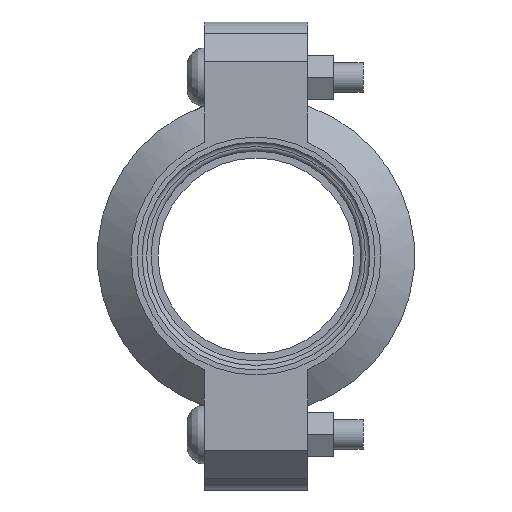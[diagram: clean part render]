
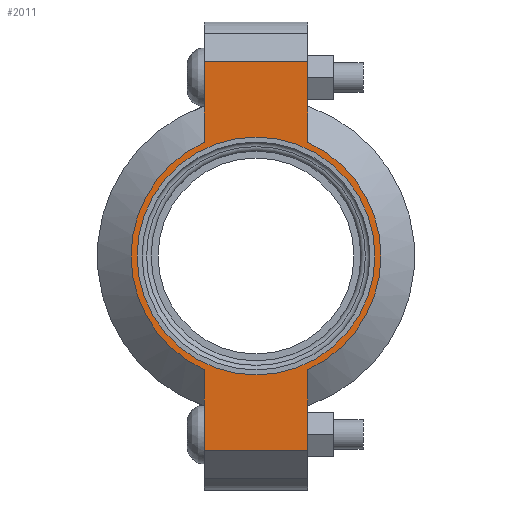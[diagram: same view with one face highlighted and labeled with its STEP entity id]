
A CAD part, left-side view. The second image highlights one B-rep face of the part: STEP entity #2011.
In plain terms, the highlighted planar face has unit normal (-1, 0, 0) as drawn and (0, 0, 1) by its records, which use the part's own axes.
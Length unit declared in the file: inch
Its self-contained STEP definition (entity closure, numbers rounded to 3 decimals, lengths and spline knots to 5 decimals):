
#126=LINE('',#3602,#227);
#139=LINE('',#3646,#240);
#144=LINE('',#3670,#245);
#151=LINE('',#3688,#252);
#158=LINE('',#3713,#259);
#159=LINE('',#3716,#260);
#227=VECTOR('',#2934,0.3937);
#240=VECTOR('',#2963,0.3937);
#245=VECTOR('',#2974,0.3937);
#252=VECTOR('',#2991,0.3937);
#259=VECTOR('',#3012,0.3937);
#260=VECTOR('',#3017,0.3937);
#316=FACE_BOUND('',#586,.T.);
#362=PLANE('',#2378);
#459=FACE_OUTER_BOUND('',#585,.T.);
#585=EDGE_LOOP('',(#1754,#1755,#1756,#1757,#1758,#1759,#1760,#1761));
#586=EDGE_LOOP('',(#1762));
#730=CIRCLE('',#2316,1.5);
#758=CIRCLE('',#2379,1.575);
#759=CIRCLE('',#2380,1.575);
#881=VERTEX_POINT('',#3390);
#924=VERTEX_POINT('',#3597);
#925=VERTEX_POINT('',#3601);
#941=VERTEX_POINT('',#3643);
#942=VERTEX_POINT('',#3645);
#948=VERTEX_POINT('',#3665);
#949=VERTEX_POINT('',#3669);
#954=VERTEX_POINT('',#3685);
#955=VERTEX_POINT('',#3687);
#1120=EDGE_CURVE('',#881,#881,#730,.T.);
#1182=EDGE_CURVE('',#925,#924,#126,.T.);
#1202=EDGE_CURVE('',#942,#941,#139,.T.);
#1211=EDGE_CURVE('',#949,#948,#144,.T.);
#1220=EDGE_CURVE('',#955,#954,#151,.T.);
#1232=EDGE_CURVE('',#949,#941,#158,.T.);
#1233=EDGE_CURVE('',#948,#955,#758,.T.);
#1234=EDGE_CURVE('',#925,#954,#159,.T.);
#1235=EDGE_CURVE('',#924,#942,#759,.T.);
#1754=ORIENTED_EDGE('',*,*,#1232,.F.);
#1755=ORIENTED_EDGE('',*,*,#1211,.T.);
#1756=ORIENTED_EDGE('',*,*,#1233,.T.);
#1757=ORIENTED_EDGE('',*,*,#1220,.T.);
#1758=ORIENTED_EDGE('',*,*,#1234,.F.);
#1759=ORIENTED_EDGE('',*,*,#1182,.T.);
#1760=ORIENTED_EDGE('',*,*,#1235,.T.);
#1761=ORIENTED_EDGE('',*,*,#1202,.T.);
#1762=ORIENTED_EDGE('',*,*,#1120,.T.);
#2011=ADVANCED_FACE('',(#459,#316),#362,.T.);
#2316=AXIS2_PLACEMENT_3D('',#3392,#2814,#2815);
#2378=AXIS2_PLACEMENT_3D('',#3714,#3013,#3014);
#2379=AXIS2_PLACEMENT_3D('',#3715,#3015,#3016);
#2380=AXIS2_PLACEMENT_3D('',#3717,#3018,#3019);
#2814=DIRECTION('center_axis',(0.,0.,-1.));
#2815=DIRECTION('ref_axis',(1.,0.,0.));
#2934=DIRECTION('',(1.,0.,0.));
#2963=DIRECTION('',(1.,0.,0.));
#2974=DIRECTION('',(-1.,0.,0.));
#2991=DIRECTION('',(-1.,0.,0.));
#3012=DIRECTION('',(0.,-1.,0.));
#3013=DIRECTION('center_axis',(0.,0.,1.));
#3014=DIRECTION('ref_axis',(-1.,0.,0.));
#3015=DIRECTION('center_axis',(0.,0.,1.));
#3016=DIRECTION('ref_axis',(1.,0.,0.));
#3017=DIRECTION('',(0.,1.,0.));
#3018=DIRECTION('center_axis',(0.,0.,1.));
#3019=DIRECTION('ref_axis',(1.,0.,0.));
#3390=CARTESIAN_POINT('',(-1.5,0.,0.94));
#3392=CARTESIAN_POINT('Origin',(0.,0.,0.94));
#3597=CARTESIAN_POINT('',(-1.43462,-0.65,0.94));
#3601=CARTESIAN_POINT('',(-2.45,-0.65,0.94));
#3602=CARTESIAN_POINT('',(2.95,-0.65,0.94));
#3643=CARTESIAN_POINT('',(2.45,-0.65,0.94));
#3645=CARTESIAN_POINT('',(1.43462,-0.65,0.94));
#3646=CARTESIAN_POINT('',(2.95,-0.65,0.94));
#3665=CARTESIAN_POINT('',(1.43462,0.65,0.94));
#3669=CARTESIAN_POINT('',(2.45,0.65,0.94));
#3670=CARTESIAN_POINT('',(-2.95,0.65,0.94));
#3685=CARTESIAN_POINT('',(-2.45,0.65,0.94));
#3687=CARTESIAN_POINT('',(-1.43462,0.65,0.94));
#3688=CARTESIAN_POINT('',(-2.95,0.65,0.94));
#3713=CARTESIAN_POINT('',(2.45,-0.325,0.94));
#3714=CARTESIAN_POINT('Origin',(0.,0.,
0.94));
#3715=CARTESIAN_POINT('Origin',(0.,0.,0.94));
#3716=CARTESIAN_POINT('',(-2.45,0.325,0.94));
#3717=CARTESIAN_POINT('Origin',(0.,0.,0.94));
